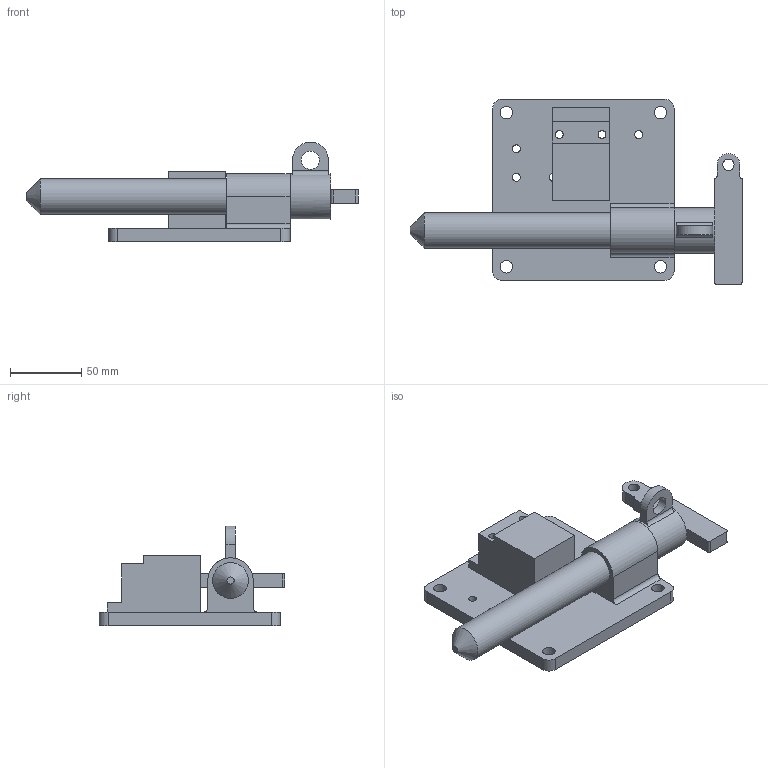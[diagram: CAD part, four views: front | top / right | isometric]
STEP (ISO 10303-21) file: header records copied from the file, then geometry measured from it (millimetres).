
FILE_DESCRIPTION(/* description */ (''),/* implementation_level */ '2;1');
FILE_NAME(/* name */ 'C:\Users\rcarver\Desktop\Tru-LOK pin\GM\With Switch\SP25Y175TR00200.stp',/* time_stamp */ '2016-06-24T13:30:05-04:00',/* author */ ('rcarver'),/* organization */ (''),/* preprocessor_version */ 'ST-DEVELOPER v16.5',/* originating_system */ 'Autodesk Inventor 2017',/* authorisation */ '');
FILE_SCHEMA (('AUTOMOTIVE_DESIGN { 1 0 10303 214 3 1 1 }'));
Length unit declared in the file: millimetre
Products named in the file (1): SP25Y175TR00200
Bounding box: 232.62 x 130.18 x 69.85 mm (x, y, z)
Volume: 390840.5 mm3; surface area: 77909.1 mm2
Topology: 3 solids, 3 shells, 69 faces, 192 edges, 131 vertices
Faces by surface type: plane 37, cylinder 31, cone 1
Full cylindrical faces by diameter (mm): 5.588 x2, 5.59 x6, 7.94 x1, 8.74 x4, 12.7 x1, 25 x1, 31.75 x1
Entity records: 2178 total; most frequent: DIRECTION 368, CARTESIAN_POINT 346, ORIENTED_EDGE 320, EDGE_CURVE 160, AXIS2_PLACEMENT_3D 138, EDGE_LOOP 116, VERTEX_POINT 116, LINE 92
